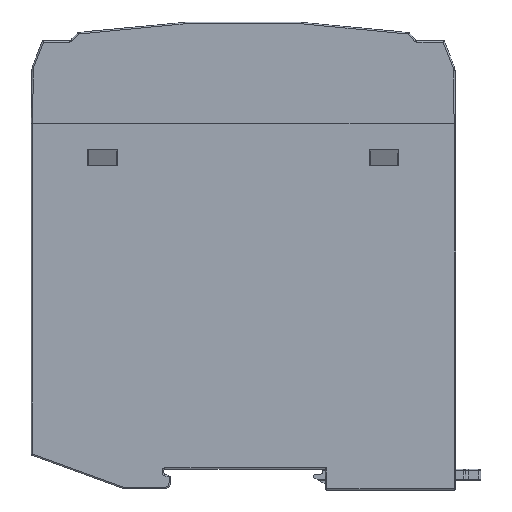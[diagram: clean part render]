
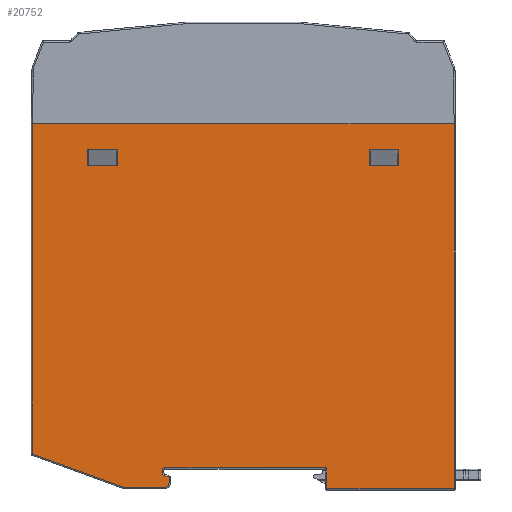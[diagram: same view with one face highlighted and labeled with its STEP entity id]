
A CAD part, left-side view. The second image highlights one B-rep face of the part: STEP entity #20752.
In plain terms, the highlighted planar face has unit normal (-1, 0, 0).
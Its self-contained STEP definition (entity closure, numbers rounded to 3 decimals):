
#10102=DIRECTION('',(0.,0.,1.));
#10103=VECTOR('',#10102,3.5);
#10104=CARTESIAN_POINT('',(229.997,-27.3,-6.595));
#10105=LINE('',#10104,#10103);
#10106=DIRECTION('',(0.,1.,0.));
#10107=VECTOR('',#10106,6.4);
#10108=CARTESIAN_POINT('',(229.997,-33.7,-6.595));
#10109=LINE('',#10108,#10107);
#10110=DIRECTION('',(0.,0.,-1.));
#10111=VECTOR('',#10110,3.5);
#10112=CARTESIAN_POINT('',(229.997,-33.7,-3.095));
#10113=LINE('',#10112,#10111);
#10114=DIRECTION('',(0.,1.,0.));
#10115=VECTOR('',#10114,6.4);
#10116=CARTESIAN_POINT('',(229.997,-33.7,-3.095));
#10117=LINE('',#10116,#10115);
#10118=DIRECTION('',(0.,1.,0.));
#10119=VECTOR('',#10118,6.4);
#10120=CARTESIAN_POINT('',(229.997,27.3,-6.595));
#10121=LINE('',#10120,#10119);
#10122=DIRECTION('',(0.,0.,-1.));
#10123=VECTOR('',#10122,3.5);
#10124=CARTESIAN_POINT('',(229.997,27.3,-3.095));
#10125=LINE('',#10124,#10123);
#10126=DIRECTION('',(0.,1.,0.));
#10127=VECTOR('',#10126,6.4);
#10128=CARTESIAN_POINT('',(229.997,27.3,-3.095));
#10129=LINE('',#10128,#10127);
#10130=DIRECTION('',(0.,0.,1.));
#10131=VECTOR('',#10130,3.5);
#10132=CARTESIAN_POINT('',(229.997,33.7,-6.595));
#10133=LINE('',#10132,#10131);
#10134=DIRECTION('',(0.,0.,-1.));
#10135=VECTOR('',#10134,71.611);
#10136=CARTESIAN_POINT('',(229.997,45.7,2.555));
#10137=LINE('',#10136,#10135);
#10138=DIRECTION('',(0.,1.,0.));
#10139=VECTOR('',#10138,91.4);
#10140=CARTESIAN_POINT('',(229.997,-45.7,2.555));
#10141=LINE('',#10140,#10139);
#10142=DIRECTION('',(0.,0.,1.));
#10143=VECTOR('',#10142,79.1);
#10144=CARTESIAN_POINT('',(229.997,-45.7,-76.545));
#10145=LINE('',#10144,#10143);
#10146=DIRECTION('',(0.,1.,0.));
#10147=VECTOR('',#10146,27.577);
#10148=CARTESIAN_POINT('',(229.997,-45.7,-76.545));
#10149=LINE('',#10148,#10147);
#10150=DIRECTION('',(0.,0.017,1.));
#10151=VECTOR('',#10150,4.501);
#10152=CARTESIAN_POINT('',(229.997,-18.123,-76.545));
#10153=LINE('',#10152,#10151);
#10154=DIRECTION('',(0.,1.,0.));
#10155=VECTOR('',#10154,35.045);
#10156=CARTESIAN_POINT('',(229.997,-18.045,-72.045));
#10157=LINE('',#10156,#10155);
#10158=CARTESIAN_POINT('',(229.997,17.,-72.645));
#10159=DIRECTION('',(1.,0.,0.));
#10160=DIRECTION('',(0.,1.,0.));
#10161=AXIS2_PLACEMENT_3D('',#10158,#10159,#10160);
#10163=DIRECTION('',(0.,0.,1.));
#10164=VECTOR('',#10163,0.49);
#10165=CARTESIAN_POINT('',(229.997,17.6,-73.135));
#10166=LINE('',#10165,#10164);
#10167=CARTESIAN_POINT('',(229.997,17.,-73.135));
#10168=DIRECTION('',(1.,0.,0.));
#10169=DIRECTION('',(0.,0.342,-0.94));
#10170=AXIS2_PLACEMENT_3D('',#10167,#10168,#10169);
#10172=DIRECTION('',(0.,0.94,0.342));
#10173=VECTOR('',#10172,1.176);
#10174=CARTESIAN_POINT('',(229.997,16.1,-74.101));
#10175=LINE('',#10174,#10173);
#10176=DIRECTION('',(0.,0.,1.));
#10177=VECTOR('',#10176,1.194);
#10178=CARTESIAN_POINT('',(229.997,16.1,-75.295));
#10179=LINE('',#10178,#10177);
#10180=CARTESIAN_POINT('',(229.997,17.05,-75.295));
#10181=DIRECTION('',(-1.,0.,0.));
#10182=DIRECTION('',(0.,0.,-1.));
#10183=AXIS2_PLACEMENT_3D('',#10180,#10181,#10182);
#10185=DIRECTION('',(0.,-1.,0.));
#10186=VECTOR('',#10185,8.897);
#10187=CARTESIAN_POINT('',(229.997,25.947,-76.245));
#10188=LINE('',#10187,#10186);
#10189=DIRECTION('',(0.,-0.94,-0.342));
#10190=VECTOR('',#10189,21.021);
#10191=CARTESIAN_POINT('',(229.997,45.7,-69.056));
#10192=LINE('',#10191,#10190);
#18283=CARTESIAN_POINT('',(229.997,-27.3,-6.595));
#18284=CARTESIAN_POINT('',(229.997,-27.3,-3.095));
#18285=VERTEX_POINT('',#18283);
#18286=VERTEX_POINT('',#18284);
#18287=CARTESIAN_POINT('',(229.997,-33.7,-3.095));
#18288=VERTEX_POINT('',#18287);
#18289=CARTESIAN_POINT('',(229.997,-33.7,-6.595));
#18290=VERTEX_POINT('',#18289);
#18291=CARTESIAN_POINT('',(229.997,27.3,-6.595));
#18292=CARTESIAN_POINT('',(229.997,33.7,-6.595));
#18293=VERTEX_POINT('',#18291);
#18294=VERTEX_POINT('',#18292);
#18295=CARTESIAN_POINT('',(229.997,33.7,-3.095));
#18296=VERTEX_POINT('',#18295);
#18297=CARTESIAN_POINT('',(229.997,27.3,-3.095));
#18298=VERTEX_POINT('',#18297);
#18860=CARTESIAN_POINT('',(229.997,45.7,2.555));
#18862=VERTEX_POINT('',#18860);
#18863=CARTESIAN_POINT('',(229.997,45.7,-69.056));
#18864=VERTEX_POINT('',#18863);
#18867=CARTESIAN_POINT('',(229.997,-45.7,-76.545));
#18868=CARTESIAN_POINT('',(229.997,-18.123,-76.545));
#18869=VERTEX_POINT('',#18867);
#18870=VERTEX_POINT('',#18868);
#18916=CARTESIAN_POINT('',(229.997,-18.045,-72.045));
#18917=VERTEX_POINT('',#18916);
#18918=CARTESIAN_POINT('',(229.997,17.,-72.045));
#18919=VERTEX_POINT('',#18918);
#18922=CARTESIAN_POINT('',(229.997,17.6,-73.135));
#18923=CARTESIAN_POINT('',(229.997,17.6,-72.645));
#18924=VERTEX_POINT('',#18922);
#18925=VERTEX_POINT('',#18923);
#18934=CARTESIAN_POINT('',(229.997,16.1,-74.101));
#18935=CARTESIAN_POINT('',(229.997,17.205,-73.699));
#18936=VERTEX_POINT('',#18934);
#18937=VERTEX_POINT('',#18935);
#18942=CARTESIAN_POINT('',(229.997,16.1,-75.295));
#18943=VERTEX_POINT('',#18942);
#18944=CARTESIAN_POINT('',(229.997,17.05,-76.245));
#18945=VERTEX_POINT('',#18944);
#18948=CARTESIAN_POINT('',(229.997,25.947,-76.245));
#18949=VERTEX_POINT('',#18948);
#19039=CARTESIAN_POINT('',(229.997,-45.7,2.555));
#19040=VERTEX_POINT('',#19039);
#20698=CARTESIAN_POINT('',(229.997,46.,-76.545));
#20699=DIRECTION('',(-1.,0.,0.));
#20700=DIRECTION('',(0.,-1.,0.));
#20701=AXIS2_PLACEMENT_3D('',#20698,#20699,#20700);
#20702=PLANE('',#20701);
#20704=ORIENTED_EDGE('',*,*,#20703,.F.);
#20706=ORIENTED_EDGE('',*,*,#20705,.F.);
#20708=ORIENTED_EDGE('',*,*,#20707,.F.);
#20710=ORIENTED_EDGE('',*,*,#20709,.T.);
#20712=ORIENTED_EDGE('',*,*,#20711,.T.);
#20714=ORIENTED_EDGE('',*,*,#20713,.T.);
#20716=ORIENTED_EDGE('',*,*,#20715,.F.);
#20718=ORIENTED_EDGE('',*,*,#20717,.F.);
#20720=ORIENTED_EDGE('',*,*,#20719,.F.);
#20722=ORIENTED_EDGE('',*,*,#20721,.F.);
#20724=ORIENTED_EDGE('',*,*,#20723,.F.);
#20726=ORIENTED_EDGE('',*,*,#20725,.F.);
#20727=ORIENTED_EDGE('',*,*,#20681,.F.);
#20729=ORIENTED_EDGE('',*,*,#20728,.F.);
#20730=EDGE_LOOP('',(#20704,#20706,#20708,#20710,#20712,#20714,#20716,#20718,
#20720,#20722,#20724,#20726,#20727,#20729));
#20731=FACE_OUTER_BOUND('',#20730,.F.);
#20733=ORIENTED_EDGE('',*,*,#20732,.F.);
#20735=ORIENTED_EDGE('',*,*,#20734,.F.);
#20737=ORIENTED_EDGE('',*,*,#20736,.T.);
#20739=ORIENTED_EDGE('',*,*,#20738,.F.);
#20740=EDGE_LOOP('',(#20733,#20735,#20737,#20739));
#20741=FACE_BOUND('',#20740,.F.);
#20743=ORIENTED_EDGE('',*,*,#20742,.F.);
#20745=ORIENTED_EDGE('',*,*,#20744,.F.);
#20747=ORIENTED_EDGE('',*,*,#20746,.F.);
#20749=ORIENTED_EDGE('',*,*,#20748,.T.);
#20750=EDGE_LOOP('',(#20743,#20745,#20747,#20749));
#20751=FACE_BOUND('',#20750,.F.);
#20752=ADVANCED_FACE('',(#20731,#20741,#20751),#20702,.T.);
#10162=CIRCLE('',#10161,0.6);
#10171=CIRCLE('',#10170,0.6);
#10184=CIRCLE('',#10183,0.95);
#20681=EDGE_CURVE('',#18949,#18945,#10188,.T.);
#20703=EDGE_CURVE('',#18862,#18864,#10137,.T.);
#20705=EDGE_CURVE('',#19040,#18862,#10141,.T.);
#20707=EDGE_CURVE('',#18869,#19040,#10145,.T.);
#20709=EDGE_CURVE('',#18869,#18870,#10149,.T.);
#20711=EDGE_CURVE('',#18870,#18917,#10153,.T.);
#20713=EDGE_CURVE('',#18917,#18919,#10157,.T.);
#20715=EDGE_CURVE('',#18925,#18919,#10162,.T.);
#20717=EDGE_CURVE('',#18924,#18925,#10166,.T.);
#20719=EDGE_CURVE('',#18937,#18924,#10171,.T.);
#20721=EDGE_CURVE('',#18936,#18937,#10175,.T.);
#20723=EDGE_CURVE('',#18943,#18936,#10179,.T.);
#20725=EDGE_CURVE('',#18945,#18943,#10184,.T.);
#20728=EDGE_CURVE('',#18864,#18949,#10192,.T.);
#20732=EDGE_CURVE('',#18293,#18294,#10121,.T.);
#20734=EDGE_CURVE('',#18298,#18293,#10125,.T.);
#20736=EDGE_CURVE('',#18298,#18296,#10129,.T.);
#20738=EDGE_CURVE('',#18294,#18296,#10133,.T.);
#20742=EDGE_CURVE('',#18285,#18286,#10105,.T.);
#20744=EDGE_CURVE('',#18290,#18285,#10109,.T.);
#20746=EDGE_CURVE('',#18288,#18290,#10113,.T.);
#20748=EDGE_CURVE('',#18288,#18286,#10117,.T.);
